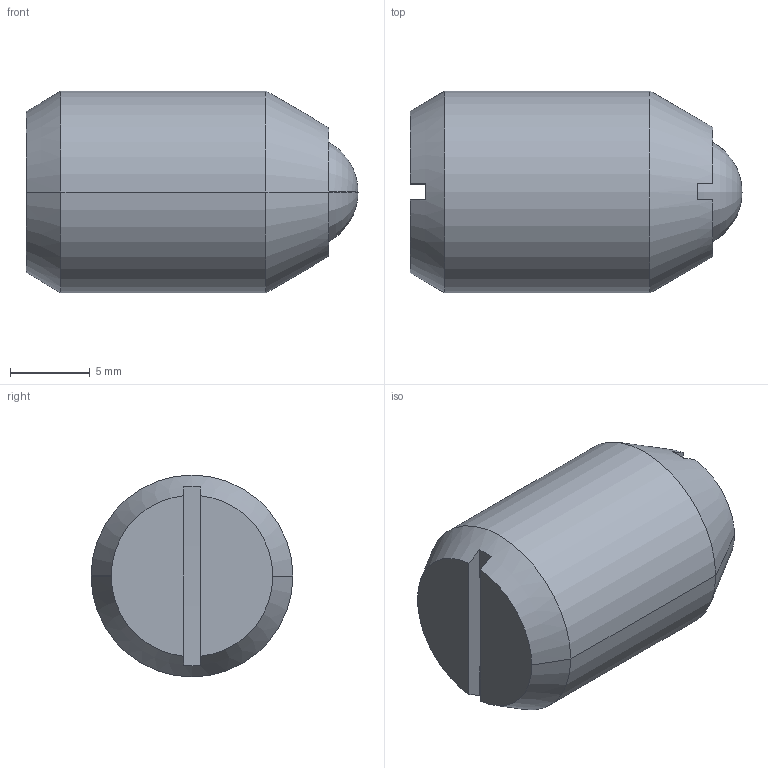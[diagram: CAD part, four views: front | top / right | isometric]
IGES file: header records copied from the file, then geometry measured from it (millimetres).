
Start section:  PTC IGES file: b60-3d.igs
Global section: file name: b60-3d.igs; native system: Pro/ENGINEER by Parametric Technology Corporation; preprocessor: 2002350; author: chant; organization: Unknown; date: 061025.163048; units: inch
Bounding box: 20.88 x 12.7 x 12.7 mm (x, y, z)
Surface area: 1239.6 mm2 (no closed solid volume)
Topology: 0 solids, 0 shells, 24 faces, 174 edges, 220 vertices
Faces by surface type: revolution 13, bspline 11
